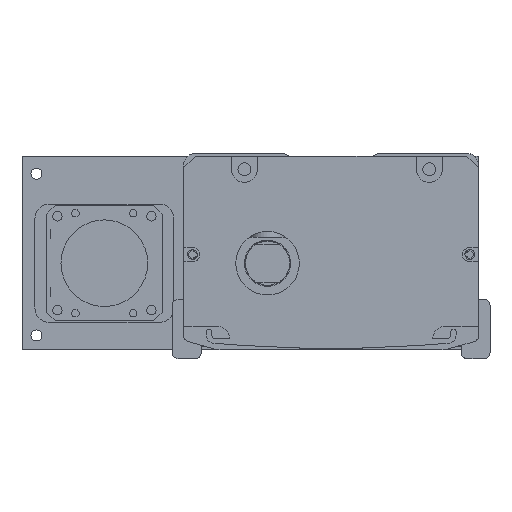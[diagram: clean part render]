
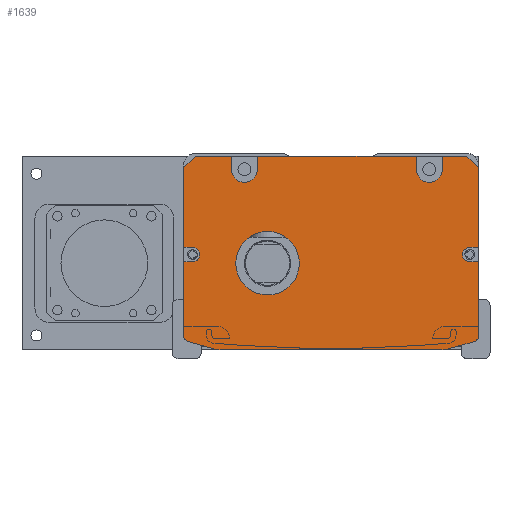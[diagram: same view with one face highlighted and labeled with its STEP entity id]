
A CAD part, front view. The second image highlights one B-rep face of the part: STEP entity #1639.
In plain terms, the highlighted planar face has unit normal (0, -1, 0).
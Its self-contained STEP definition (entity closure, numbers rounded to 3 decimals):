
#1639=ADVANCED_FACE('',(#4320,#4321),#2325,.F.);
#2325=PLANE('',#13699);
#2626=LINE('',#19072,#3429);
#2630=LINE('',#19080,#3433);
#2640=LINE('',#19101,#3443);
#2644=LINE('',#19109,#3447);
#2913=LINE('',#20102,#3716);
#2914=LINE('',#20104,#3717);
#2915=LINE('',#20106,#3718);
#2916=LINE('',#20110,#3719);
#2917=LINE('',#20112,#3720);
#2918=LINE('',#20114,#3721);
#2919=LINE('',#20118,#3722);
#2920=LINE('',#20120,#3723);
#2921=LINE('',#20122,#3724);
#2922=LINE('',#20123,#3725);
#2923=LINE('',#20127,#3726);
#2924=LINE('',#20130,#3727);
#2925=LINE('',#20134,#3728);
#2926=LINE('',#20138,#3729);
#2927=LINE('',#20141,#3730);
#2928=LINE('',#20145,#3731);
#3429=VECTOR('',#14969,1.);
#3433=VECTOR('',#14973,1.);
#3443=VECTOR('',#14985,1.);
#3447=VECTOR('',#14989,1.);
#3716=VECTOR('',#16054,1.);
#3717=VECTOR('',#16055,1.);
#3718=VECTOR('',#16056,1.);
#3719=VECTOR('',#16059,1.);
#3720=VECTOR('',#16060,1.);
#3721=VECTOR('',#16061,1.);
#3722=VECTOR('',#16064,1.);
#3723=VECTOR('',#16065,1.);
#3724=VECTOR('',#16066,1.);
#3725=VECTOR('',#16067,1.);
#3726=VECTOR('',#16070,1.);
#3727=VECTOR('',#16073,1.);
#3728=VECTOR('',#16076,1.);
#3729=VECTOR('',#16079,1.);
#3730=VECTOR('',#16082,1.);
#3731=VECTOR('',#16085,1.);
#4320=FACE_BOUND('',#5044,.T.);
#4321=FACE_BOUND('',#5045,.T.);
#5044=EDGE_LOOP('',(#6948,#6949,#6950,#6951,#6952,#6953,#6954,#6955,#6956,
#6957,#6958,#6959,#6960,#6961,#6962,#6963,#6964,#6965,#6966,#6967,#6968,
#6969,#6970,#6971,#6972,#6973,#6974,#6975));
#5045=EDGE_LOOP('',(#6976));
#6948=ORIENTED_EDGE('',*,*,#10872,.T.);
#6949=ORIENTED_EDGE('',*,*,#11356,.T.);
#6950=ORIENTED_EDGE('',*,*,#11357,.T.);
#6951=ORIENTED_EDGE('',*,*,#11358,.F.);
#6952=ORIENTED_EDGE('',*,*,#11359,.T.);
#6953=ORIENTED_EDGE('',*,*,#11360,.F.);
#6954=ORIENTED_EDGE('',*,*,#11361,.T.);
#6955=ORIENTED_EDGE('',*,*,#11362,.F.);
#6956=ORIENTED_EDGE('',*,*,#11363,.T.);
#6957=ORIENTED_EDGE('',*,*,#11364,.F.);
#6958=ORIENTED_EDGE('',*,*,#11365,.T.);
#6959=ORIENTED_EDGE('',*,*,#11366,.T.);
#6960=ORIENTED_EDGE('',*,*,#10890,.T.);
#6961=ORIENTED_EDGE('',*,*,#11367,.T.);
#6962=ORIENTED_EDGE('',*,*,#11368,.T.);
#6963=ORIENTED_EDGE('',*,*,#11369,.T.);
#6964=ORIENTED_EDGE('',*,*,#10886,.T.);
#6965=ORIENTED_EDGE('',*,*,#11370,.T.);
#6966=ORIENTED_EDGE('',*,*,#11371,.T.);
#6967=ORIENTED_EDGE('',*,*,#11372,.T.);
#6968=ORIENTED_EDGE('',*,*,#11373,.T.);
#6969=ORIENTED_EDGE('',*,*,#11374,.T.);
#6970=ORIENTED_EDGE('',*,*,#11375,.T.);
#6971=ORIENTED_EDGE('',*,*,#11376,.T.);
#6972=ORIENTED_EDGE('',*,*,#10876,.T.);
#6973=ORIENTED_EDGE('',*,*,#11377,.T.);
#6974=ORIENTED_EDGE('',*,*,#11378,.T.);
#6975=ORIENTED_EDGE('',*,*,#11379,.T.);
#6976=ORIENTED_EDGE('',*,*,#11380,.T.);
#9581=VERTEX_POINT('',#19071);
#9582=VERTEX_POINT('',#19073);
#9585=VERTEX_POINT('',#19079);
#9586=VERTEX_POINT('',#19081);
#9595=VERTEX_POINT('',#19100);
#9596=VERTEX_POINT('',#19102);
#9599=VERTEX_POINT('',#19108);
#9600=VERTEX_POINT('',#19110);
#9926=VERTEX_POINT('',#20103);
#9927=VERTEX_POINT('',#20105);
#9928=VERTEX_POINT('',#20107);
#9929=VERTEX_POINT('',#20109);
#9930=VERTEX_POINT('',#20111);
#9931=VERTEX_POINT('',#20113);
#9932=VERTEX_POINT('',#20115);
#9933=VERTEX_POINT('',#20117);
#9934=VERTEX_POINT('',#20119);
#9935=VERTEX_POINT('',#20121);
#9936=VERTEX_POINT('',#20124);
#9937=VERTEX_POINT('',#20126);
#9938=VERTEX_POINT('',#20129);
#9939=VERTEX_POINT('',#20131);
#9940=VERTEX_POINT('',#20133);
#9941=VERTEX_POINT('',#20135);
#9942=VERTEX_POINT('',#20137);
#9943=VERTEX_POINT('',#20139);
#9944=VERTEX_POINT('',#20142);
#9945=VERTEX_POINT('',#20144);
#9946=VERTEX_POINT('',#20147);
#10872=EDGE_CURVE('',#9582,#9581,#2626,.T.);
#10876=EDGE_CURVE('',#9586,#9585,#2630,.T.);
#10886=EDGE_CURVE('',#9596,#9595,#2640,.T.);
#10890=EDGE_CURVE('',#9600,#9599,#2644,.T.);
#11356=EDGE_CURVE('',#9581,#9926,#2913,.T.);
#11357=EDGE_CURVE('',#9926,#9927,#2914,.T.);
#11358=EDGE_CURVE('',#9928,#9927,#2915,.T.);
#11359=EDGE_CURVE('',#9928,#9929,#12760,.T.);
#11360=EDGE_CURVE('',#9930,#9929,#2916,.T.);
#11361=EDGE_CURVE('',#9930,#9931,#2917,.T.);
#11362=EDGE_CURVE('',#9932,#9931,#2918,.T.);
#11363=EDGE_CURVE('',#9932,#9933,#12761,.T.);
#11364=EDGE_CURVE('',#9934,#9933,#2919,.T.);
#11365=EDGE_CURVE('',#9934,#9935,#2920,.T.);
#11366=EDGE_CURVE('',#9935,#9600,#2921,.T.);
#11367=EDGE_CURVE('',#9599,#9936,#2922,.T.);
#11368=EDGE_CURVE('',#9936,#9937,#12762,.T.);
#11369=EDGE_CURVE('',#9937,#9596,#2923,.T.);
#11370=EDGE_CURVE('',#9595,#9938,#12763,.T.);
#11371=EDGE_CURVE('',#9938,#9939,#2924,.T.);
#11372=EDGE_CURVE('',#9939,#9940,#12764,.T.);
#11373=EDGE_CURVE('',#9940,#9941,#2925,.T.);
#11374=EDGE_CURVE('',#9941,#9942,#12765,.T.);
#11375=EDGE_CURVE('',#9942,#9943,#2926,.T.);
#11376=EDGE_CURVE('',#9943,#9586,#12766,.T.);
#11377=EDGE_CURVE('',#9585,#9944,#2927,.T.);
#11378=EDGE_CURVE('',#9944,#9945,#12767,.T.);
#11379=EDGE_CURVE('',#9945,#9582,#2928,.T.);
#11380=EDGE_CURVE('',#9946,#9946,#12768,.T.);
#12760=CIRCLE('',#13690,4.5);
#12761=CIRCLE('',#13691,4.5);
#12762=CIRCLE('',#13692,2.5);
#12763=CIRCLE('',#13693,2.);
#12764=CIRCLE('',#13694,10.);
#12765=CIRCLE('',#13695,10.);
#12766=CIRCLE('',#13696,2.);
#12767=CIRCLE('',#13697,2.5);
#12768=CIRCLE('',#13698,11.);
#13690=AXIS2_PLACEMENT_3D('',#20108,#16057,#16058);
#13691=AXIS2_PLACEMENT_3D('',#20116,#16062,#16063);
#13692=AXIS2_PLACEMENT_3D('',#20125,#16068,#16069);
#13693=AXIS2_PLACEMENT_3D('',#20128,#16071,#16072);
#13694=AXIS2_PLACEMENT_3D('',#20132,#16074,#16075);
#13695=AXIS2_PLACEMENT_3D('',#20136,#16077,#16078);
#13696=AXIS2_PLACEMENT_3D('',#20140,#16080,#16081);
#13697=AXIS2_PLACEMENT_3D('',#20143,#16083,#16084);
#13698=AXIS2_PLACEMENT_3D('',#20146,#16086,#16087);
#13699=AXIS2_PLACEMENT_3D('',#20148,#16088,#16089);
#14969=DIRECTION('',(0.,0.,1.));
#14973=DIRECTION('',(0.,0.,1.));
#14985=DIRECTION('',(0.,0.,-1.));
#14989=DIRECTION('',(0.,0.,-1.));
#16054=DIRECTION('',(-0.707,0.,0.707));
#16055=DIRECTION('',(-1.,0.,0.));
#16056=DIRECTION('',(0.,0.,1.));
#16057=DIRECTION('',(0.,1.,0.));
#16058=DIRECTION('',(0.,0.,1.));
#16059=DIRECTION('',(0.,0.,-1.));
#16060=DIRECTION('',(-1.,0.,0.));
#16061=DIRECTION('',(0.,0.,1.));
#16062=DIRECTION('',(0.,1.,0.));
#16063=DIRECTION('',(0.,0.,1.));
#16064=DIRECTION('',(0.,0.,-1.));
#16065=DIRECTION('',(-1.,0.,0.));
#16066=DIRECTION('',(-0.707,0.,-0.707));
#16067=DIRECTION('',(1.,0.,0.));
#16068=DIRECTION('',(0.,1.,0.));
#16069=DIRECTION('',(0.,0.,1.));
#16070=DIRECTION('',(-1.,0.,0.));
#16071=DIRECTION('',(0.,-1.,0.));
#16072=DIRECTION('',(0.,0.,1.));
#16073=DIRECTION('',(0.963,0.,-0.269));
#16074=DIRECTION('',(0.,-1.,0.));
#16075=DIRECTION('',(0.,0.,1.));
#16076=DIRECTION('',(1.,0.,0.));
#16077=DIRECTION('',(0.,-1.,0.));
#16078=DIRECTION('',(0.,0.,-1.));
#16079=DIRECTION('',(0.963,0.,0.269));
#16080=DIRECTION('',(0.,-1.,0.));
#16081=DIRECTION('',(0.,0.,-1.));
#16082=DIRECTION('',(-1.,0.,0.));
#16083=DIRECTION('',(0.,1.,0.));
#16084=DIRECTION('',(0.,0.,1.));
#16085=DIRECTION('',(1.,0.,0.));
#16086=DIRECTION('',(0.,1.,0.));
#16087=DIRECTION('',(0.,0.,1.));
#16088=DIRECTION('',(0.,1.,0.));
#16089=DIRECTION('',(1.,0.,0.));
#19071=CARTESIAN_POINT('',(47.808,-517.5,-5.));
#19072=CARTESIAN_POINT('',(47.808,-517.5,-1.));
#19073=CARTESIAN_POINT('',(47.808,-517.5,-32.5));
#19079=CARTESIAN_POINT('',(47.808,-517.5,-37.5));
#19080=CARTESIAN_POINT('',(47.808,-517.5,-1.));
#19081=CARTESIAN_POINT('',(47.808,-517.5,-63.212));
#19100=CARTESIAN_POINT('',(-54.192,-517.5,-63.212));
#19101=CARTESIAN_POINT('',(-54.192,-517.5,-62.));
#19102=CARTESIAN_POINT('',(-54.192,-517.5,-37.5));
#19108=CARTESIAN_POINT('',(-54.192,-517.5,-32.5));
#19109=CARTESIAN_POINT('',(-54.192,-517.5,-62.));
#19110=CARTESIAN_POINT('',(-54.192,-517.5,-5.));
#20102=CARTESIAN_POINT('',(43.808,-517.5,-1.));
#20103=CARTESIAN_POINT('',(43.808,-517.5,-1.));
#20104=CARTESIAN_POINT('',(-3.192,-517.5,-1.));
#20105=CARTESIAN_POINT('',(35.308,-517.5,-1.));
#20106=CARTESIAN_POINT('',(35.308,-517.5,-1.));
#20107=CARTESIAN_POINT('',(35.308,-517.5,-5.5));
#20108=CARTESIAN_POINT('',(30.808,-517.5,-5.5));
#20109=CARTESIAN_POINT('',(26.308,-517.5,-5.5));
#20110=CARTESIAN_POINT('',(26.308,-517.5,-1.));
#20111=CARTESIAN_POINT('',(26.308,-517.5,-1.));
#20112=CARTESIAN_POINT('',(-54.192,-517.5,-1.));
#20113=CARTESIAN_POINT('',(-28.692,-517.5,-1.));
#20114=CARTESIAN_POINT('',(-28.692,-517.5,-3.5));
#20115=CARTESIAN_POINT('',(-28.692,-517.5,-5.5));
#20116=CARTESIAN_POINT('',(-33.192,-517.5,-5.5));
#20117=CARTESIAN_POINT('',(-37.692,-517.5,-5.5));
#20118=CARTESIAN_POINT('',(-37.692,-517.5,-1.));
#20119=CARTESIAN_POINT('',(-37.692,-517.5,-1.));
#20120=CARTESIAN_POINT('',(-54.192,-517.5,-1.));
#20121=CARTESIAN_POINT('',(-50.192,-517.5,-1.));
#20122=CARTESIAN_POINT('',(-54.192,-517.5,-5.));
#20123=CARTESIAN_POINT('',(-3.192,-517.5,-32.5));
#20124=CARTESIAN_POINT('',(-51.192,-517.5,-32.5));
#20125=CARTESIAN_POINT('',(-51.192,-517.5,-35.));
#20126=CARTESIAN_POINT('',(-51.192,-517.5,-37.5));
#20127=CARTESIAN_POINT('',(-3.192,-517.5,-37.5));
#20128=CARTESIAN_POINT('',(-52.192,-517.5,-63.212));
#20129=CARTESIAN_POINT('',(-52.731,-517.5,-65.138));
#20130=CARTESIAN_POINT('',(-55.807,-517.5,-64.279));
#20131=CARTESIAN_POINT('',(-43.809,-517.5,-67.631));
#20132=CARTESIAN_POINT('',(-41.118,-517.5,-58.));
#20133=CARTESIAN_POINT('',(-41.118,-517.5,-68.));
#20134=CARTESIAN_POINT('',(-54.692,-517.5,-68.));
#20135=CARTESIAN_POINT('',(34.733,-517.5,-68.));
#20136=CARTESIAN_POINT('',(34.733,-517.5,-58.));
#20137=CARTESIAN_POINT('',(37.424,-517.5,-67.631));
#20138=CARTESIAN_POINT('',(49.422,-517.5,-64.279));
#20139=CARTESIAN_POINT('',(46.346,-517.5,-65.138));
#20140=CARTESIAN_POINT('',(45.808,-517.5,-63.212));
#20141=CARTESIAN_POINT('',(-3.192,-517.5,-37.5));
#20142=CARTESIAN_POINT('',(44.808,-517.5,-37.5));
#20143=CARTESIAN_POINT('',(44.808,-517.5,-35.));
#20144=CARTESIAN_POINT('',(44.808,-517.5,-32.5));
#20145=CARTESIAN_POINT('',(-3.192,-517.5,-32.5));
#20146=CARTESIAN_POINT('',(-25.192,-517.5,-38.));
#20147=CARTESIAN_POINT('',(-25.192,-517.5,-27.));
#20148=CARTESIAN_POINT('',(-3.192,-517.5,-1.));
